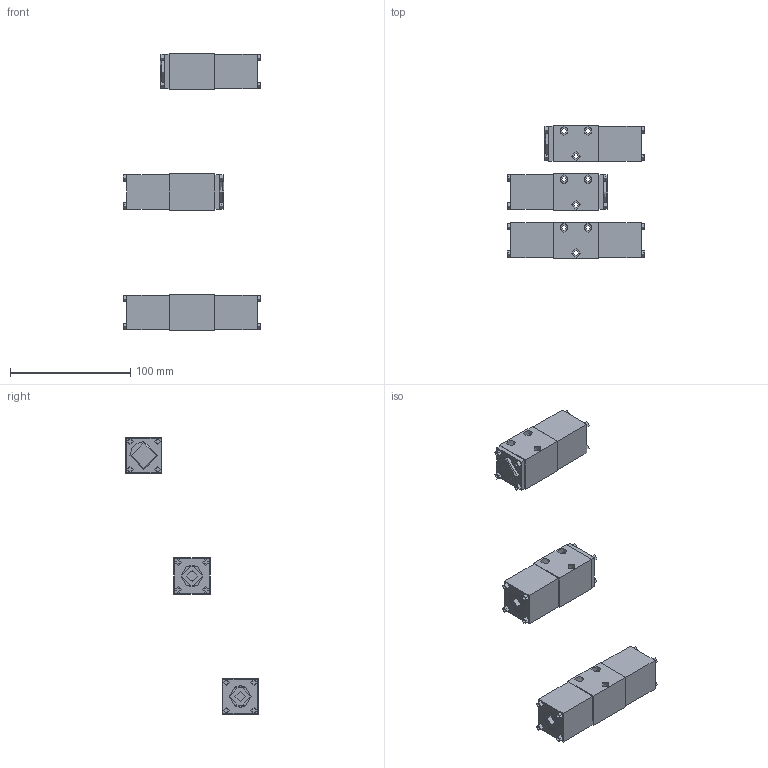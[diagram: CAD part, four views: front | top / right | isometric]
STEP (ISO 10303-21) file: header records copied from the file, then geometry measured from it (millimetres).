
FILE_DESCRIPTION(('Bauteilbeschreibung','HiCAD-Model','HiCAD-STEP-TRANSLATION','Bauteilbeschreibung'),'2;1');
FILE_NAME('D:/WDLFA03-.STP','2006-08-09T15:15:19+00:00',('Konstrukteur'),('Konstrukteur Firma GmbH'),'HiCAD3 V1210 STEP 1.6.2005','HiCAD3 V1210','confidential');
FILE_SCHEMA(('AUTOMOTIVE_DESIGN { 1 2 10303 214 0 1 1 1 }'));
Length unit declared in the file: millimetre
Products named in the file (52): WDLFA03 ; WDLFA030; A5B55ACC; A2F81D75; A2F81D750; IN6KTM3; IN6KTM30; IN6KTM31; IN6KTM32; IN6KTM33; A2F81D751; A2F81D752; IN6KTM34; IN6KTM35; IN6KTM36; IN6KTM37; IN6KTM38; AC9BECA4; WDLFA03__1; EB784C4D; A2F81D753; A2F81D754; IN6KTM39; IN6KTM310; IN6KTM311; IN6KTM312; IN6KTM313; AC9BECA40; FF7E946B; FF7E946B0; IN6KTM314; IN6KTM315; IN6KTM316; IN6KTM317; IN6KTM318; WDLFA03__2; A212E41E; A2F81D755; A2F81D756; IN6KTM319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
Assembly tree (51 placements, depth 6):
  WDLFA03 
    WDLFA030
      A5B55ACC
        A2F81D75
        A2F81D750
          IN6KTM3
            IN6KTM30
            IN6KTM31
            IN6KTM32
            IN6KTM33
        A2F81D751
        A2F81D752
          IN6KTM34
            IN6KTM35
            IN6KTM36
            IN6KTM37
            IN6KTM38
        AC9BECA4
    WDLFA03__1
      EB784C4D
        A2F81D753
        A2F81D754
          IN6KTM39
            IN6KTM310
            IN6KTM311
            IN6KTM312
            IN6KTM313
        AC9BECA40
        FF7E946B
        FF7E946B0
          IN6KTM314
            IN6KTM315
            IN6KTM316
            IN6KTM317
            IN6KTM318
    WDLFA03__2
      A212E41E
        A2F81D755
        A2F81D756
          IN6KTM319
            IN6KTM320
            IN6KTM321
            IN6KTM322
            IN6KTM323
        AC9BECA41
        FF7E946B1
        FF7E946B2
          IN6KTM324
            IN6KTM325
            IN6KTM326
            IN6KTM327
            IN6KTM328
Bounding box: 114 x 110 x 230 mm (x, y, z)
Topology: 33 solids, 45 shells, 451 faces, 1010 edges, 695 vertices
Faces by surface type: plane 316, cylinder 115, cone 20
Full cylindrical faces by diameter (mm): 2.5 x24, 3.4 x8, 3.5 x16, 4.2 x9, 5.5 x24, 7 x15, 7.5 x9, 8.7 x4, 18 x4, 23 x2
Entity records: 23173 total; most frequent: CARTESIAN_POINT 4839, DIRECTION 2122, ORIENTED_EDGE 1592, COLOUR_RGB 1280, PRESENTATION_STYLE_ASSIGNMENT 1280, OVER_RIDING_STYLED_ITEM 1247, CURVE_STYLE 796, DRAUGHTING_PRE_DEFINED_CURVE_FONT 796
